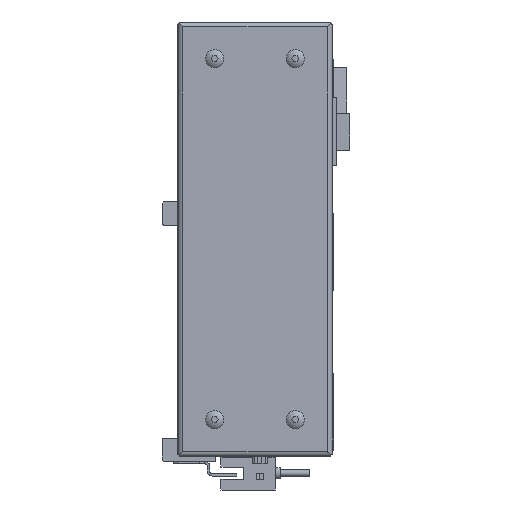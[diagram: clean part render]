
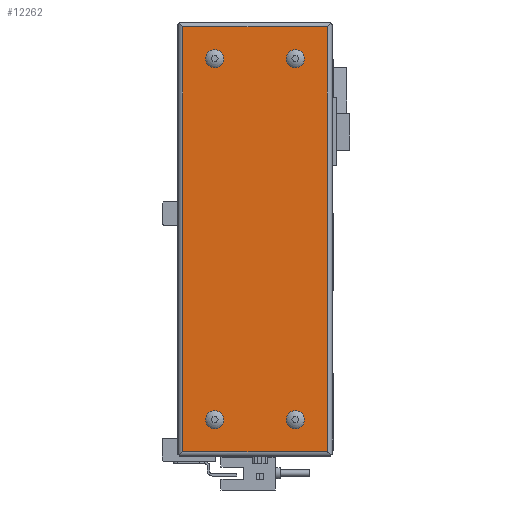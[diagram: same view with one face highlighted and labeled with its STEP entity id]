
A CAD part, left-side view. The second image highlights one B-rep face of the part: STEP entity #12262.
In plain terms, the highlighted planar face has unit normal (-1, 0, 0).
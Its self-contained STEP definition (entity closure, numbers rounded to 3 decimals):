
#337=PLANE('',#13154);
#1065=LINE('',#18623,#2358);
#1066=LINE('',#18626,#2359);
#1067=LINE('',#18628,#2360);
#1068=LINE('',#18630,#2361);
#2358=VECTOR('',#15001,1000.);
#2359=VECTOR('',#15002,1000.);
#2360=VECTOR('',#15003,1000.);
#2361=VECTOR('',#15004,1000.);
#4226=ORIENTED_EDGE('',*,*,#7287,.F.);
#4227=ORIENTED_EDGE('',*,*,#7288,.F.);
#4228=ORIENTED_EDGE('',*,*,#7289,.F.);
#4229=ORIENTED_EDGE('',*,*,#7290,.F.);
#4230=ORIENTED_EDGE('',*,*,#7291,.F.);
#4231=ORIENTED_EDGE('',*,*,#7292,.F.);
#4232=ORIENTED_EDGE('',*,*,#7293,.T.);
#4233=ORIENTED_EDGE('',*,*,#7294,.T.);
#7287=EDGE_CURVE('',#8909,#8909,#9879,.F.);
#7288=EDGE_CURVE('',#8910,#8910,#9880,.F.);
#7289=EDGE_CURVE('',#8911,#8911,#9881,.F.);
#7290=EDGE_CURVE('',#8912,#8912,#9882,.F.);
#7291=EDGE_CURVE('',#8913,#8914,#1065,.T.);
#7292=EDGE_CURVE('',#8915,#8913,#1066,.T.);
#7293=EDGE_CURVE('',#8915,#8916,#1067,.T.);
#7294=EDGE_CURVE('',#8916,#8914,#1068,.T.);
#8909=VERTEX_POINT('',#18616);
#8910=VERTEX_POINT('',#18618);
#8911=VERTEX_POINT('',#18620);
#8912=VERTEX_POINT('',#18622);
#8913=VERTEX_POINT('',#18624);
#8914=VERTEX_POINT('',#18625);
#8915=VERTEX_POINT('',#18627);
#8916=VERTEX_POINT('',#18629);
#9879=CIRCLE('',#13155,3.7);
#9880=CIRCLE('',#13156,3.7);
#9881=CIRCLE('',#13157,3.7);
#9882=CIRCLE('',#13158,3.7);
#10395=EDGE_LOOP('',(#4226));
#10396=EDGE_LOOP('',(#4227));
#10397=EDGE_LOOP('',(#4228));
#10398=EDGE_LOOP('',(#4229));
#10399=EDGE_LOOP('',(#4230,#4231,#4232,#4233));
#11266=FACE_BOUND('',#10395,.T.);
#11267=FACE_BOUND('',#10396,.T.);
#11268=FACE_BOUND('',#10397,.T.);
#11269=FACE_BOUND('',#10398,.T.);
#11270=FACE_BOUND('',#10399,.T.);
#12262=ADVANCED_FACE('',(#11266,#11267,#11268,#11269,#11270),#337,.F.);
#13154=AXIS2_PLACEMENT_3D('',#18614,#14991,#14992);
#13155=AXIS2_PLACEMENT_3D('',#18615,#14993,#14994);
#13156=AXIS2_PLACEMENT_3D('',#18617,#14995,#14996);
#13157=AXIS2_PLACEMENT_3D('',#18619,#14997,#14998);
#13158=AXIS2_PLACEMENT_3D('',#18621,#14999,#15000);
#14991=DIRECTION('',(1.,0.,0.));
#14992=DIRECTION('',(0.,0.,-1.));
#14993=DIRECTION('',(1.,0.,0.));
#14994=DIRECTION('',(0.,0.,-1.));
#14995=DIRECTION('',(1.,0.,0.));
#14996=DIRECTION('',(0.,0.,-1.));
#14997=DIRECTION('',(1.,0.,0.));
#14998=DIRECTION('',(0.,0.,-1.));
#14999=DIRECTION('',(1.,0.,0.));
#15000=DIRECTION('',(0.,0.,-1.));
#15001=DIRECTION('',(0.,0.,-1.));
#15002=DIRECTION('',(0.,-1.,0.));
#15003=DIRECTION('',(0.,0.,-1.));
#15004=DIRECTION('',(0.,-1.,0.));
#18614=CARTESIAN_POINT('',(-52.,0.,0.));
#18615=CARTESIAN_POINT('',(-52.,15.5,111.5));
#18616=CARTESIAN_POINT('',(-52.,15.5,107.8));
#18617=CARTESIAN_POINT('',(-52.,15.5,-36.));
#18618=CARTESIAN_POINT('',(-52.,15.5,-39.7));
#18619=CARTESIAN_POINT('',(-52.,48.5,111.5));
#18620=CARTESIAN_POINT('',(-52.,48.5,107.8));
#18621=CARTESIAN_POINT('',(-52.,48.5,-36.));
#18622=CARTESIAN_POINT('',(-52.,48.5,-39.7));
#18623=CARTESIAN_POINT('',(-52.,2.5,177.5));
#18624=CARTESIAN_POINT('',(-52.,2.5,124.5));
#18625=CARTESIAN_POINT('',(-52.,2.5,-49.));
#18626=CARTESIAN_POINT('',(-52.,177.5,124.5));
#18627=CARTESIAN_POINT('',(-52.,61.5,124.5));
#18628=CARTESIAN_POINT('',(-52.,61.5,177.5));
#18629=CARTESIAN_POINT('',(-52.,61.5,-49.));
#18630=CARTESIAN_POINT('',(-52.,177.5,-49.));
